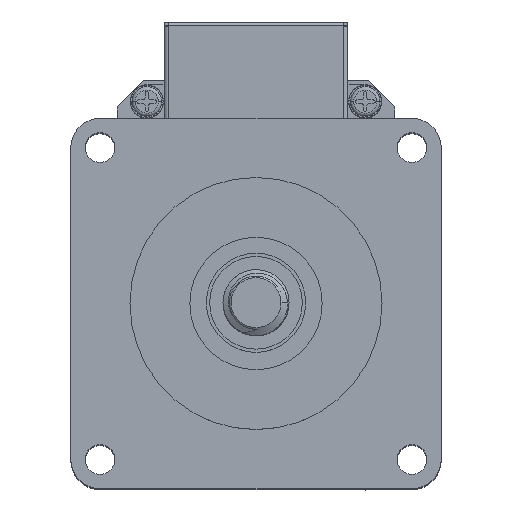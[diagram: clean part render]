
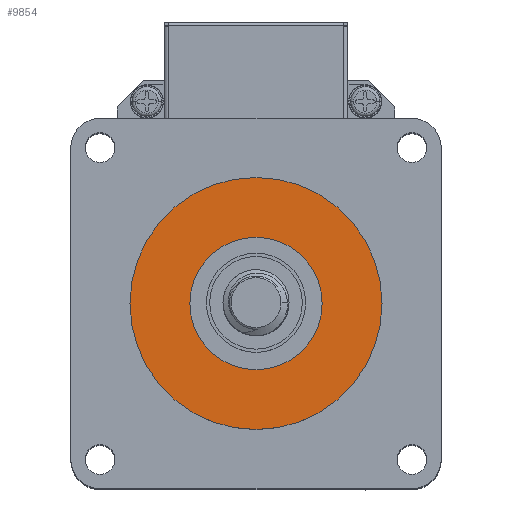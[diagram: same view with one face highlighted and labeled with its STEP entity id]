
A CAD part, top view. The second image highlights one B-rep face of the part: STEP entity #9854.
In plain terms, the highlighted planar face has unit normal (0, 0, 1).
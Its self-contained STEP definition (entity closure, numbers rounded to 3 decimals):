
#19 = CARTESIAN_POINT ( 'NONE',  ( -12.481, 1.868, 84.679 ) ) ;
#2713 = DIRECTION ( 'NONE',  ( 1., 0., 0. ) ) ;
#3624 = DIRECTION ( 'NONE',  ( 1., 0., 0. ) ) ;
#3909 = CARTESIAN_POINT ( 'NONE',  ( -2.481, 1.868, 84.679 ) ) ;
#6204 = EDGE_CURVE ( 'NONE', #29255, #7474, #31926, .T. ) ;
#6741 = FACE_BOUND ( 'NONE', #9803, .T. ) ;
#7039 = EDGE_LOOP ( 'NONE', ( #15843, #15885 ) ) ;
#7474 = VERTEX_POINT ( 'NONE', #28420 ) ;
#9155 = DIRECTION ( 'NONE',  ( 0., 0., 1. ) ) ;
#9323 = AXIS2_PLACEMENT_3D ( 'NONE', #37863, #16370, #41507 ) ;
#9803 = EDGE_LOOP ( 'NONE', ( #28236, #40167 ) ) ;
#9854 = ADVANCED_FACE ( 'NONE', ( #15138, #6741 ), #44398, .T. ) ;
#12931 = EDGE_CURVE ( 'NONE', #37095, #19760, #19201, .T. ) ;
#14136 = EDGE_CURVE ( 'NONE', #19760, #37095, #42754, .T. ) ;
#15138 = FACE_OUTER_BOUND ( 'NONE', #7039, .T. ) ;
#15806 = DIRECTION ( 'NONE',  ( 0., 0., 1. ) ) ;
#15843 = ORIENTED_EDGE ( 'NONE', *, *, #14136, .T. ) ;
#15885 = ORIENTED_EDGE ( 'NONE', *, *, #12931, .T. ) ;
#16370 = DIRECTION ( 'NONE',  ( 0., 0., 1. ) ) ;
#19201 = CIRCLE ( 'NONE', #9323, 19.05 ) ;
#19760 = VERTEX_POINT ( 'NONE', #33231 ) ;
#23525 = AXIS2_PLACEMENT_3D ( 'NONE', #30633, #9155, #34275 ) ;
#24167 = DIRECTION ( 'NONE',  ( 0., 0., -1. ) ) ;
#25099 = DIRECTION ( 'NONE',  ( 0., 0., -1. ) ) ;
#27440 = CIRCLE ( 'NONE', #28062, 10. ) ;
#28062 = AXIS2_PLACEMENT_3D ( 'NONE', #45722, #24167, #2713 ) ;
#28236 = ORIENTED_EDGE ( 'NONE', *, *, #6204, .T. ) ;
#28420 = CARTESIAN_POINT ( 'NONE',  ( -22.481, 1.868, 84.679 ) ) ;
#29255 = VERTEX_POINT ( 'NONE', #3909 ) ;
#30633 = CARTESIAN_POINT ( 'NONE',  ( -12.481, 1.868, 84.679 ) ) ;
#31484 = EDGE_CURVE ( 'NONE', #7474, #29255, #27440, .T. ) ;
#31926 = CIRCLE ( 'NONE', #45341, 10. ) ;
#33231 = CARTESIAN_POINT ( 'NONE',  ( -31.531, 1.868, 84.679 ) ) ;
#34275 = DIRECTION ( 'NONE',  ( 1., 0., 0. ) ) ;
#37095 = VERTEX_POINT ( 'NONE', #44274 ) ;
#37318 = CARTESIAN_POINT ( 'NONE',  ( -12.481, 1.868, 84.679 ) ) ;
#37863 = CARTESIAN_POINT ( 'NONE',  ( -12.481, 1.868, 84.679 ) ) ;
#39468 = AXIS2_PLACEMENT_3D ( 'NONE', #37318, #15806, #40964 ) ;
#40167 = ORIENTED_EDGE ( 'NONE', *, *, #31484, .T. ) ;
#40964 = DIRECTION ( 'NONE',  ( 1., 0., 0. ) ) ;
#41507 = DIRECTION ( 'NONE',  ( 1., 0., 0. ) ) ;
#42754 = CIRCLE ( 'NONE', #23525, 19.05 ) ;
#44274 = CARTESIAN_POINT ( 'NONE',  ( 6.569, 1.868, 84.679 ) ) ;
#44398 = PLANE ( 'NONE',  #39468 ) ;
#45341 = AXIS2_PLACEMENT_3D ( 'NONE', #19, #25099, #3624 ) ;
#45722 = CARTESIAN_POINT ( 'NONE',  ( -12.481, 1.868, 84.679 ) ) ;
